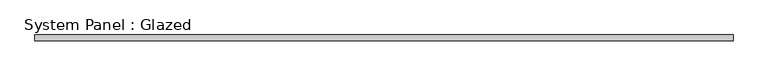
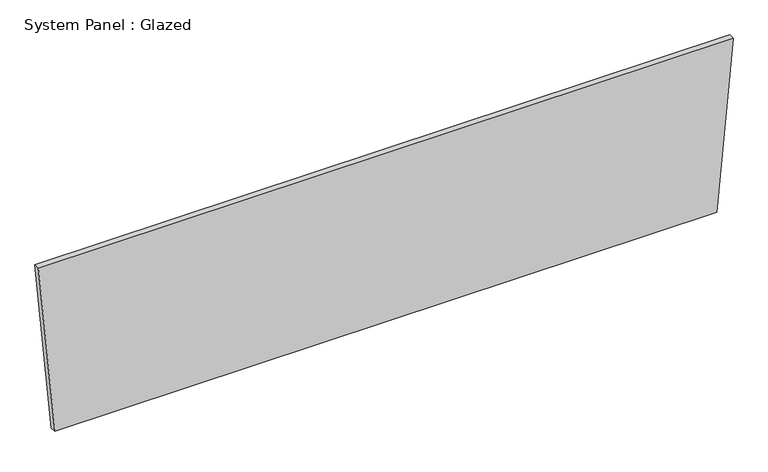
"""IFC4 building model written with IfcOpenShell, lengths in millimetres: plate geometry, System Panel : Glazed."""

from ifc_helpers import new_model, si_unit, frame, origin, place, context, project, spatial, polyline, outline, extrude, source, transform, mapped, element, save


def system_panel_glazed_49170262(model_context):
    return source(origin(), model_context, "Body", "SweptSolid", [
        extrude(outline(polyline([(0.0, -1408.9384984), (0.0, 1408.9384984), (758.7366017, 1479.3854233), (758.7366017, -1479.3854233), (0.0, -1408.9384984)])), frame((0.0, -44.45, 0.0), z_axis=(0.0, 1.0, 0.0), x_axis=(0.0, 0.0, 1.0)), (0.0, 0.0, 1.0), 25.4),
    ])


if __name__ == "__main__":
    model = new_model("IFC4")
    model_context = context("Model", 3, world=origin())
    ifc_project = project(units=[si_unit("LENGTHUNIT", "METRE", prefix="MILLI")], contexts=[model_context])
    site = spatial("IfcSite", under=ifc_project)
    building = spatial("IfcBuilding", under=site)
    placement = place(None, origin())
    system_panel_glazed_shape = system_panel_glazed_49170262(model_context)
    element("IfcPlate", 1, ObjectType="System Panel : Glazed", at=placement, inside=building, context=model_context, shape_type="MappedRepresentation", body=[
        mapped(system_panel_glazed_shape, transform((0.0, 0.0, 0.0), x_axis=(1.0, 0.0, 0.0), y_axis=(0.0, 1.0, 0.0), z_axis=(0.0, 0.0, 1.0))),
    ])
    save(model, "model.ifc")
